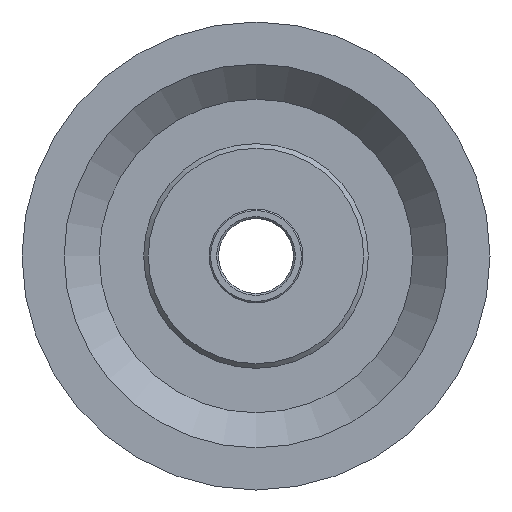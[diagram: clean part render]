
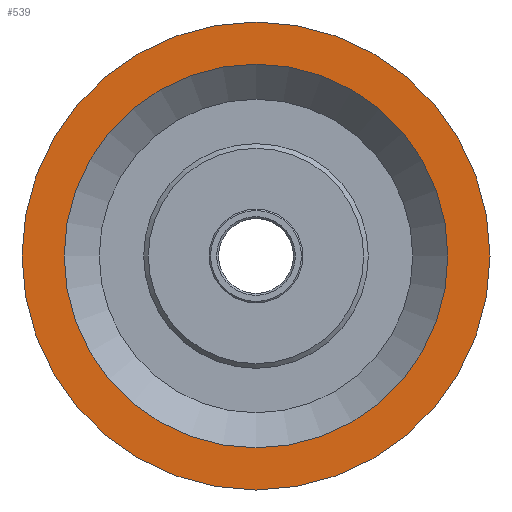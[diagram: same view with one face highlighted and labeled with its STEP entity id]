
A CAD part, left-side view. The second image highlights one B-rep face of the part: STEP entity #539.
In plain terms, the highlighted planar face has unit normal (-1, 0, 0).
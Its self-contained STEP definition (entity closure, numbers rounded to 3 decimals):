
#30=FACE_BOUND('',#141,.T.);
#38=PLANE('',#672);
#109=FACE_OUTER_BOUND('',#140,.T.);
#140=EDGE_LOOP('',(#451,#452));
#141=EDGE_LOOP('',(#453,#454));
#177=CIRCLE('',#639,50.);
#178=CIRCLE('',#640,50.);
#198=CIRCLE('',#670,41.);
#199=CIRCLE('',#671,41.);
#238=VERTEX_POINT('',#963);
#239=VERTEX_POINT('',#965);
#259=VERTEX_POINT('',#1022);
#260=VERTEX_POINT('',#1024);
#303=EDGE_CURVE('',#238,#239,#177,.T.);
#304=EDGE_CURVE('',#239,#238,#178,.T.);
#331=EDGE_CURVE('',#260,#259,#198,.T.);
#332=EDGE_CURVE('',#259,#260,#199,.T.);
#451=ORIENTED_EDGE('',*,*,#304,.F.);
#452=ORIENTED_EDGE('',*,*,#303,.F.);
#453=ORIENTED_EDGE('',*,*,#331,.T.);
#454=ORIENTED_EDGE('',*,*,#332,.T.);
#539=ADVANCED_FACE('',(#109,#30),#38,.T.);
#639=AXIS2_PLACEMENT_3D('',#966,#764,#765);
#640=AXIS2_PLACEMENT_3D('',#967,#766,#767);
#670=AXIS2_PLACEMENT_3D('',#1025,#833,#834);
#671=AXIS2_PLACEMENT_3D('',#1026,#835,#836);
#672=AXIS2_PLACEMENT_3D('',#1027,#837,#838);
#764=DIRECTION('center_axis',(1.,0.,0.));
#765=DIRECTION('ref_axis',(0.,0.,-1.));
#766=DIRECTION('center_axis',(1.,0.,0.));
#767=DIRECTION('ref_axis',(0.,0.,-1.));
#833=DIRECTION('center_axis',(1.,0.,0.));
#834=DIRECTION('ref_axis',(0.,0.,-1.));
#835=DIRECTION('center_axis',(1.,0.,0.));
#836=DIRECTION('ref_axis',(0.,0.,-1.));
#837=DIRECTION('center_axis',(-1.,0.,0.));
#838=DIRECTION('ref_axis',(0.,0.,1.));
#963=CARTESIAN_POINT('',(-10.5,-50.,0.));
#965=CARTESIAN_POINT('',(-10.5,50.,0.));
#966=CARTESIAN_POINT('Origin',(-10.5,0.,0.));
#967=CARTESIAN_POINT('Origin',(-10.5,0.,0.));
#1022=CARTESIAN_POINT('',(-10.5,-41.,0.));
#1024=CARTESIAN_POINT('',(-10.5,41.,0.));
#1025=CARTESIAN_POINT('Origin',(-10.5,0.,0.));
#1026=CARTESIAN_POINT('Origin',(-10.5,0.,0.));
#1027=CARTESIAN_POINT('Origin',(-10.5,50.,0.));
